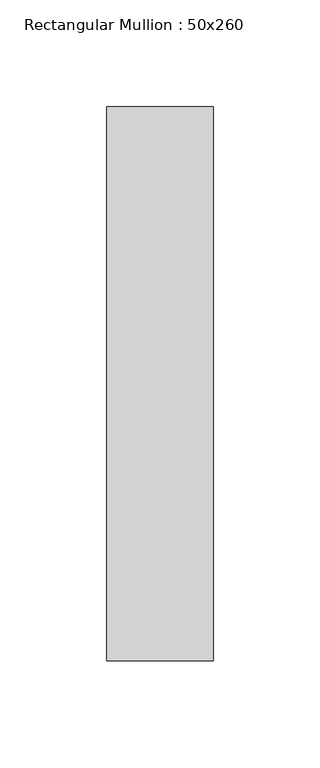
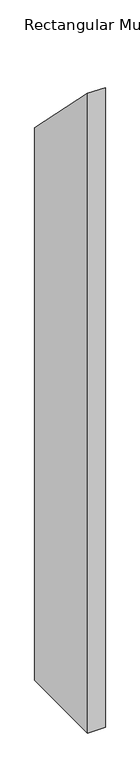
"""IFC4 building model written with IfcOpenShell, lengths in millimetres: member geometry, Rectangular Mullion : 50x260."""

from ifc_helpers import new_model, si_unit, frame, origin, place, context, project, spatial, polyline, outline, extrude, source, transform, mapped, element, save


def rectangular_mullion_50x260_e4b0689c(model_context):
    return source(origin(), model_context, "Body", "SweptSolid", [
        extrude(outline(polyline([(-130.0, 130.0), (130.0, -130.0), (130.0, -1785.8088066), (-130.0, -1785.8088066), (-130.0, 130.0)])), frame((-50.0, 0.0, 0.0), z_axis=(1.0, 0.0, 0.0), x_axis=(0.0, 1.0, 0.0)), (0.0, 0.0, 1.0), 50.0),
    ])


if __name__ == "__main__":
    model = new_model("IFC4")
    model_context = context("Model", 3, world=origin())
    ifc_project = project(units=[si_unit("LENGTHUNIT", "METRE", prefix="MILLI")], contexts=[model_context])
    site = spatial("IfcSite", under=ifc_project)
    building = spatial("IfcBuilding", under=site)
    placement = place(None, origin())
    rectangular_mullion_50x260_shape = rectangular_mullion_50x260_e4b0689c(model_context)
    element("IfcMember", 1, ObjectType="Rectangular Mullion : 50x260", at=placement, inside=building, context=model_context, shape_type="MappedRepresentation", body=[
        mapped(rectangular_mullion_50x260_shape, transform((0.0, 0.0, 0.0), x_axis=(1.0, 0.0, 0.0), y_axis=(0.0, 1.0, 0.0), z_axis=(0.0, 0.0, 1.0))),
    ])
    save(model, "model.ifc")
